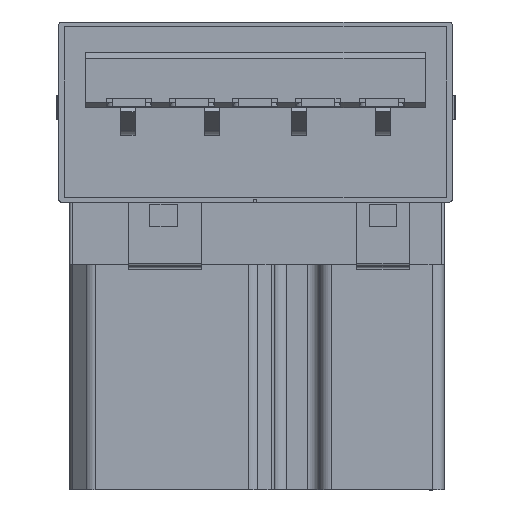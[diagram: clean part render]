
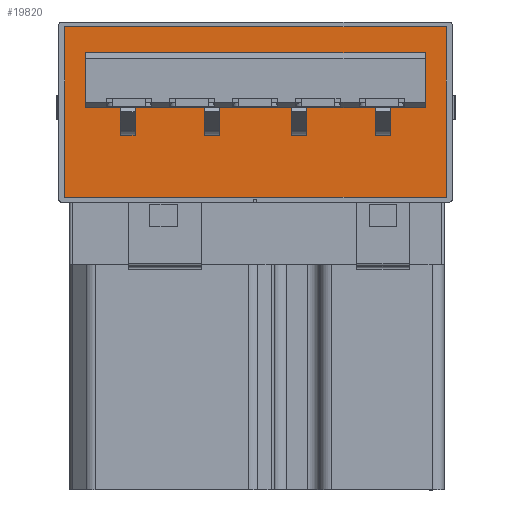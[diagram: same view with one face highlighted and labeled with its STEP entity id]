
A CAD part, front view. The second image highlights one B-rep face of the part: STEP entity #19820.
In plain terms, the highlighted planar face has unit normal (0, -1, 0) as drawn and (0, 1, 0) by its records, which use the part's own axes.
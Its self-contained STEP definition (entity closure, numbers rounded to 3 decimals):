
#9834 = VERTEX_POINT('',#9835);
#9835 = CARTESIAN_POINT('',(0.,3.55,-4.1));
#9841 = EDGE_CURVE('',#9834,#9842,#9844,.T.);
#9842 = VERTEX_POINT('',#9843);
#9843 = CARTESIAN_POINT('',(12.7,3.55,-4.1));
#9844 = LINE('',#9845,#9846);
#9845 = CARTESIAN_POINT('',(12.7,3.55,-4.1));
#9846 = VECTOR('',#9847,1.);
#9847 = DIRECTION('',(1.,0.,0.));
#10412 = EDGE_CURVE('',#10413,#10415,#10417,.T.);
#10413 = VERTEX_POINT('',#10414);
#10414 = CARTESIAN_POINT('',(12.7,3.55,1.58));
#10415 = VERTEX_POINT('',#10416);
#10416 = CARTESIAN_POINT('',(0.,3.55,1.58));
#10417 = LINE('',#10418,#10419);
#10418 = CARTESIAN_POINT('',(12.7,3.55,1.58));
#10419 = VECTOR('',#10420,1.);
#10420 = DIRECTION('',(-1.,0.,0.));
#10547 = EDGE_CURVE('',#9842,#10413,#10548,.T.);
#10548 = LINE('',#10549,#10550);
#10549 = CARTESIAN_POINT('',(12.7,3.55,-4.1));
#10550 = VECTOR('',#10551,1.);
#10551 = DIRECTION('',(0.,0.,1.));
#10668 = EDGE_CURVE('',#10415,#9834,#10669,.T.);
#10669 = LINE('',#10670,#10671);
#10670 = CARTESIAN_POINT('',(0.,3.55,-4.1));
#10671 = VECTOR('',#10672,1.);
#10672 = DIRECTION('',(0.,0.,-1.));
#18899 = VERTEX_POINT('',#18900);
#18900 = CARTESIAN_POINT('',(0.7,3.55,-1.4));
#18906 = EDGE_CURVE('',#18899,#18907,#18909,.T.);
#18907 = VERTEX_POINT('',#18908);
#18908 = CARTESIAN_POINT('',(12.,3.55,-1.4));
#18909 = LINE('',#18910,#18911);
#18910 = CARTESIAN_POINT('',(0.,3.55,-1.4));
#18911 = VECTOR('',#18912,1.);
#18912 = DIRECTION('',(1.,0.,0.));
#19101 = VERTEX_POINT('',#19102);
#19102 = CARTESIAN_POINT('',(12.,3.55,-3.24));
#19108 = EDGE_CURVE('',#19109,#19101,#19111,.T.);
#19109 = VERTEX_POINT('',#19110);
#19110 = CARTESIAN_POINT('',(0.7,3.55,-3.24));
#19111 = LINE('',#19112,#19113);
#19112 = CARTESIAN_POINT('',(0.,3.55,-3.24));
#19113 = VECTOR('',#19114,1.);
#19114 = DIRECTION('',(1.,0.,0.));
#19132 = EDGE_CURVE('',#19109,#18899,#19133,.T.);
#19133 = LINE('',#19134,#19135);
#19134 = CARTESIAN_POINT('',(0.7,3.55,40.721));
#19135 = VECTOR('',#19136,1.);
#19136 = DIRECTION('',(0.,0.,1.));
#19153 = EDGE_CURVE('',#18907,#19101,#19154,.T.);
#19154 = LINE('',#19155,#19156);
#19155 = CARTESIAN_POINT('',(12.,3.55,40.721));
#19156 = VECTOR('',#19157,1.);
#19157 = DIRECTION('',(0.,0.,-1.));
#19820 = ADVANCED_FACE('',(#19821,#19827),#19833,.F.);
#19821 = FACE_BOUND('',#19822,.T.);
#19822 = EDGE_LOOP('',(#19823,#19824,#19825,#19826));
#19823 = ORIENTED_EDGE('',*,*,#19153,.F.);
#19824 = ORIENTED_EDGE('',*,*,#18906,.F.);
#19825 = ORIENTED_EDGE('',*,*,#19132,.F.);
#19826 = ORIENTED_EDGE('',*,*,#19108,.T.);
#19827 = FACE_BOUND('',#19828,.T.);
#19828 = EDGE_LOOP('',(#19829,#19830,#19831,#19832));
#19829 = ORIENTED_EDGE('',*,*,#10547,.F.);
#19830 = ORIENTED_EDGE('',*,*,#9841,.F.);
#19831 = ORIENTED_EDGE('',*,*,#10668,.F.);
#19832 = ORIENTED_EDGE('',*,*,#10412,.F.);
#19833 = PLANE('',#19834);
#19834 = AXIS2_PLACEMENT_3D('',#19835,#19836,#19837);
#19835 = CARTESIAN_POINT('',(62.565,3.55,
    -1.25));
#19836 = DIRECTION('',(0.,-1.,0.));
#19837 = DIRECTION('',(0.,0.,-1.));
